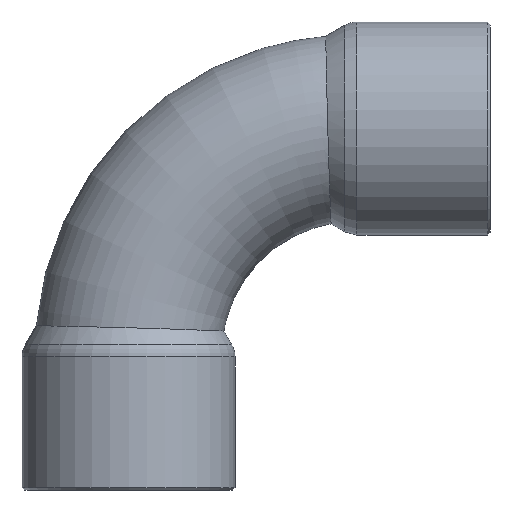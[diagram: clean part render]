
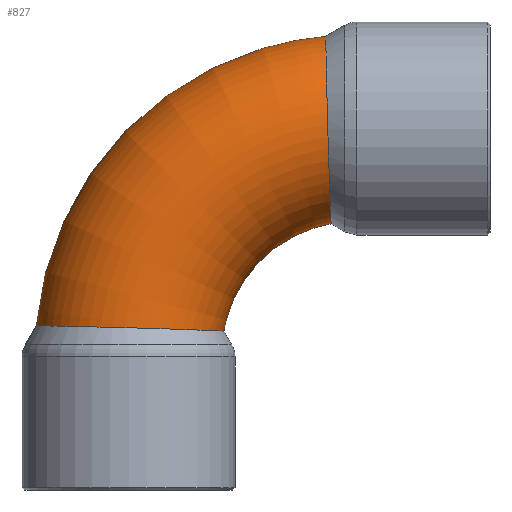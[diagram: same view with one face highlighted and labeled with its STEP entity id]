
A CAD part, left-side view. The second image highlights one B-rep face of the part: STEP entity #827.
In plain terms, the highlighted toroidal (fillet/blend) face has major radius 19.1 mm and minor radius 7.935 mm.
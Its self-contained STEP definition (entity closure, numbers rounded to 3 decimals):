
#444=CARTESIAN_POINT('',(0.0,2.354,26.932));
#445=VERTEX_POINT('',#444);
#446=CARTESIAN_POINT('',(0.0,2.354,26.932));
#447=CARTESIAN_POINT('',(0.99,2.354,26.932));
#448=CARTESIAN_POINT('',(1.972,2.351,26.747));
#449=CARTESIAN_POINT('',(3.87,2.336,26.001));
#450=CARTESIAN_POINT('',(4.761,2.325,25.428));
#451=CARTESIAN_POINT('',(6.269,2.295,23.966));
#452=CARTESIAN_POINT('',(6.871,2.276,23.093));
#453=CARTESIAN_POINT('',(7.702,2.231,21.162));
#454=CARTESIAN_POINT('',(7.922,2.205,20.122));
#455=CARTESIAN_POINT('',(7.947,2.149,18.015));
#456=CARTESIAN_POINT('',(7.75,2.118,16.967));
#457=CARTESIAN_POINT('',(6.969,2.056,15.028));
#458=CARTESIAN_POINT('',(6.399,2.025,14.152));
#459=CARTESIAN_POINT('',(5.029,1.971,12.741));
#460=CARTESIAN_POINT('',(4.267,1.948,12.191));
#461=CARTESIAN_POINT('',(2.739,1.916,11.455));
#462=CARTESIAN_POINT('',(2.006,1.906,11.224));
#463=CARTESIAN_POINT('',(0.814,1.897,11.032));
#464=CARTESIAN_POINT('',(0.371,1.895,10.999));
#465=CARTESIAN_POINT('',(-0.529,1.896,11.007));
#466=CARTESIAN_POINT('',(-0.984,1.898,11.051));
#467=CARTESIAN_POINT('',(-2.274,1.909,11.29));
#468=CARTESIAN_POINT('',(-3.083,1.922,11.581));
#469=CARTESIAN_POINT('',(-4.75,1.961,12.505));
#470=CARTESIAN_POINT('',(-5.558,1.989,13.192));
#471=CARTESIAN_POINT('',(-6.833,2.048,14.803));
#472=CARTESIAN_POINT('',(-7.302,2.078,15.701));
#473=CARTESIAN_POINT('',(-7.875,2.136,17.596));
#474=CARTESIAN_POINT('',(-7.984,2.164,18.573));
#475=CARTESIAN_POINT('',(-7.845,2.215,20.516));
#476=CARTESIAN_POINT('',(-7.599,2.238,21.466));
#477=CARTESIAN_POINT('',(-6.773,2.279,23.238));
#478=CARTESIAN_POINT('',(-6.196,2.296,24.044));
#479=CARTESIAN_POINT('',(-4.763,2.325,25.419));
#480=CARTESIAN_POINT('',(-3.916,2.336,25.969));
#481=CARTESIAN_POINT('',(-2.039,2.35,26.733));
#482=CARTESIAN_POINT('',(-1.025,2.354,26.932));
#483=CARTESIAN_POINT('',(0.,2.354,26.932));
#484=B_SPLINE_CURVE_WITH_KNOTS('',3,(#446,#447,#448,#449,#450,#451,#452,#453,#454,#455,#456,#457,#458,#459,#460,#461,#462,#463,#464,#465,#466,#467,#468,#469,#470,#471,#472,#473,#474,#475,#476,#477,#478,#479,#480,#481,#482,#483),.UNSPECIFIED.,.T.,.U.,(4,2,2,2,2,2,2,2,2,2,2,2,2,2,2,2,2,2,4),(-5.009,-4.712,-4.397,-4.082,-3.767,-3.45,-3.139,-2.86,-2.63,-2.497,-2.36,-2.104,-1.789,-1.487,-1.195,-0.903,-0.608,-0.307,0.0),.UNSPECIFIED.);
#485=EDGE_CURVE('',#445,#445,#484,.T.);
#686=CARTESIAN_POINT('',(0.0,26.932,2.354));
#687=VERTEX_POINT('',#686);
#688=CARTESIAN_POINT('',(0.0,26.932,2.354));
#689=CARTESIAN_POINT('',(-0.99,26.932,2.354));
#690=CARTESIAN_POINT('',(-1.972,26.747,2.351));
#691=CARTESIAN_POINT('',(-3.87,26.001,2.336));
#692=CARTESIAN_POINT('',(-4.761,25.428,2.325));
#693=CARTESIAN_POINT('',(-6.269,23.966,2.295));
#694=CARTESIAN_POINT('',(-6.871,23.093,2.276));
#695=CARTESIAN_POINT('',(-7.702,21.162,2.231));
#696=CARTESIAN_POINT('',(-7.922,20.122,2.205));
#697=CARTESIAN_POINT('',(-7.947,18.015,2.149));
#698=CARTESIAN_POINT('',(-7.75,16.967,2.118));
#699=CARTESIAN_POINT('',(-6.969,15.028,2.056));
#700=CARTESIAN_POINT('',(-6.399,14.152,2.025));
#701=CARTESIAN_POINT('',(-5.029,12.741,1.971));
#702=CARTESIAN_POINT('',(-4.267,12.191,1.948));
#703=CARTESIAN_POINT('',(-2.739,11.455,1.916));
#704=CARTESIAN_POINT('',(-2.006,11.224,1.906));
#705=CARTESIAN_POINT('',(-0.814,11.032,1.897));
#706=CARTESIAN_POINT('',(-0.371,10.999,1.895));
#707=CARTESIAN_POINT('',(0.529,11.007,1.896));
#708=CARTESIAN_POINT('',(0.984,11.051,1.898));
#709=CARTESIAN_POINT('',(2.274,11.29,1.909));
#710=CARTESIAN_POINT('',(3.083,11.581,1.922));
#711=CARTESIAN_POINT('',(4.75,12.505,1.961));
#712=CARTESIAN_POINT('',(5.558,13.192,1.989));
#713=CARTESIAN_POINT('',(6.833,14.803,2.048));
#714=CARTESIAN_POINT('',(7.302,15.701,2.078));
#715=CARTESIAN_POINT('',(7.875,17.596,2.136));
#716=CARTESIAN_POINT('',(7.984,18.573,2.164));
#717=CARTESIAN_POINT('',(7.845,20.516,2.215));
#718=CARTESIAN_POINT('',(7.599,21.466,2.238));
#719=CARTESIAN_POINT('',(6.773,23.238,2.279));
#720=CARTESIAN_POINT('',(6.196,24.044,2.296));
#721=CARTESIAN_POINT('',(4.763,25.419,2.325));
#722=CARTESIAN_POINT('',(3.916,25.969,2.336));
#723=CARTESIAN_POINT('',(2.039,26.733,2.35));
#724=CARTESIAN_POINT('',(1.025,26.932,2.354));
#725=CARTESIAN_POINT('',(0.,26.932,2.354));
#726=B_SPLINE_CURVE_WITH_KNOTS('',3,(#688,#689,#690,#691,#692,#693,#694,#695,#696,#697,#698,#699,#700,#701,#702,#703,#704,#705,#706,#707,#708,#709,#710,#711,#712,#713,#714,#715,#716,#717,#718,#719,#720,#721,#722,#723,#724,#725),.UNSPECIFIED.,.T.,.U.,(4,2,2,2,2,2,2,2,2,2,2,2,2,2,2,2,2,2,4),(-5.009,-4.712,-4.397,-4.082,-3.767,-3.45,-3.139,-2.86,-2.63,-2.497,-2.36,-2.104,-1.789,-1.487,-1.195,-0.903,-0.608,-0.307,0.0),.UNSPECIFIED.);
#727=EDGE_CURVE('',#687,#687,#726,.T.);
#816=CARTESIAN_POINT('',(0.0,0.0,0.0));
#817=DIRECTION('',(1.0,0.0,0.0));
#818=DIRECTION('',(0.0,0.0,-1.0));
#819=AXIS2_PLACEMENT_3D('',#816,#817,#818);
#820=TOROIDAL_SURFACE('',#819,19.1,7.935);
#821=ORIENTED_EDGE('',*,*,#485,.T.);
#822=EDGE_LOOP('',(#821));
#823=FACE_OUTER_BOUND('',#822,.T.);
#824=ORIENTED_EDGE('',*,*,#727,.T.);
#825=EDGE_LOOP('',(#824));
#826=FACE_BOUND('',#825,.T.);
#827=ADVANCED_FACE('',(#823,#826),#820,.T.);
